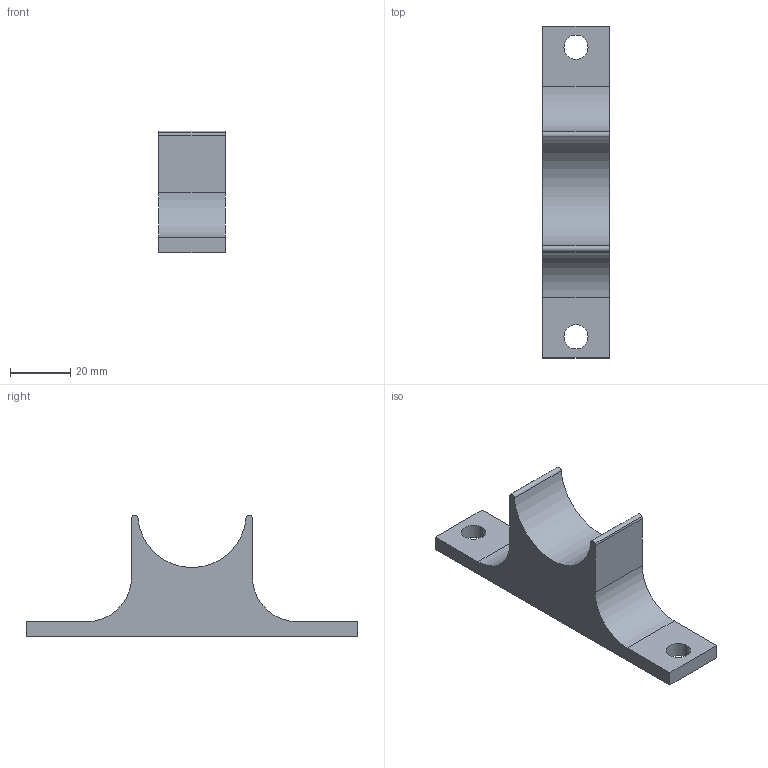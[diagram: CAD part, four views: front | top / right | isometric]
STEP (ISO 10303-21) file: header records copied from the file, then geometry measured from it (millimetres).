
FILE_DESCRIPTION(('CATIA V5 STEP Exchange'),'2;1');
FILE_NAME('\\psf\Home\Desktop\Soporte dirección Astra\Catia\Soporte parte inferior v1.3.stp','2014-01-21T23:15:03+00:00',('none'),('none'),'CATIA Version 5 Release 21 GA (IN-10)','CATIA V5 STEP AP203','none');
FILE_SCHEMA(('CONFIG_CONTROL_DESIGN'));
Length unit declared in the file: millimetre
Products named in the file (1): Soporte direccion
Bounding box: 22 x 110 x 40.37 mm (x, y, z)
Volume: 34129 mm3; surface area: 9918.3 mm2
Topology: 1 solids, 1 shells, 20 faces, 54 edges, 36 vertices
Faces by surface type: cylinder 11, plane 9
Entity records: 653 total; most frequent: CARTESIAN_POINT 108, ORIENTED_EDGE 108, DIRECTION 88, EDGE_CURVE 54, AXIS2_PLACEMENT_3D 40, VERTEX_POINT 36, VECTOR 32, LINE 32
